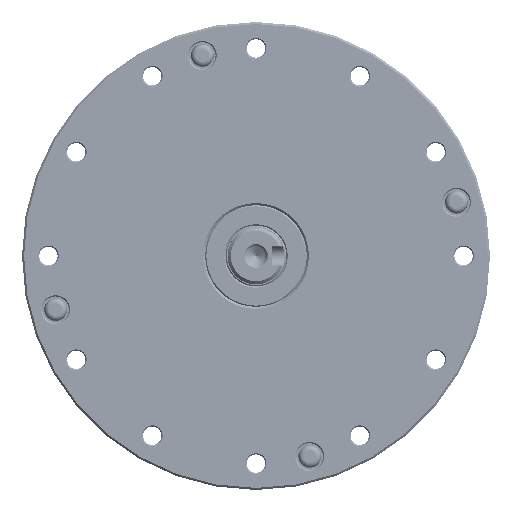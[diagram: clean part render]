
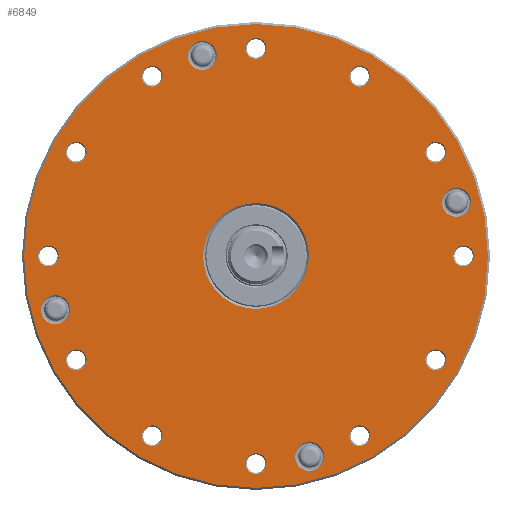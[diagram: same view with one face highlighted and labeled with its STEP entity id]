
A CAD part, front view. The second image highlights one B-rep face of the part: STEP entity #6849.
In plain terms, the highlighted planar face has unit normal (0, -1, 0) as drawn and (0, 0, -1) by its records, which use the part's own axes.
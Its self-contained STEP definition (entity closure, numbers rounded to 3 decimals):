
#5776=PLANE('',#22064);
#6849=ADVANCED_FACE('',(#8374,#8375,#8376,#8377,#8378,#8379,#8380,#8381,
#8382,#8383,#8384,#8385,#8386,#8387,#8388,#8389,#8390,#8391),#5776,.F.);
#8374=FACE_BOUND('',#10141,.T.);
#8375=FACE_BOUND('',#10142,.T.);
#8376=FACE_BOUND('',#10143,.T.);
#8377=FACE_BOUND('',#10144,.T.);
#8378=FACE_BOUND('',#10145,.T.);
#8379=FACE_BOUND('',#10146,.T.);
#8380=FACE_BOUND('',#10147,.T.);
#8381=FACE_BOUND('',#10148,.T.);
#8382=FACE_BOUND('',#10149,.T.);
#8383=FACE_BOUND('',#10150,.T.);
#8384=FACE_BOUND('',#10151,.T.);
#8385=FACE_BOUND('',#10152,.T.);
#8386=FACE_BOUND('',#10153,.T.);
#8387=FACE_BOUND('',#10154,.T.);
#8388=FACE_BOUND('',#10155,.T.);
#8389=FACE_BOUND('',#10156,.T.);
#8390=FACE_BOUND('',#10157,.T.);
#8391=FACE_BOUND('',#10158,.T.);
#10141=EDGE_LOOP('',(#13551));
#10142=EDGE_LOOP('',(#13552));
#10143=EDGE_LOOP('',(#13553));
#10144=EDGE_LOOP('',(#13554));
#10145=EDGE_LOOP('',(#13555));
#10146=EDGE_LOOP('',(#13556));
#10147=EDGE_LOOP('',(#13557));
#10148=EDGE_LOOP('',(#13558));
#10149=EDGE_LOOP('',(#13559));
#10150=EDGE_LOOP('',(#13560));
#10151=EDGE_LOOP('',(#13561));
#10152=EDGE_LOOP('',(#13562));
#10153=EDGE_LOOP('',(#13563));
#10154=EDGE_LOOP('',(#13564));
#10155=EDGE_LOOP('',(#13565));
#10156=EDGE_LOOP('',(#13566));
#10157=EDGE_LOOP('',(#13567));
#10158=EDGE_LOOP('',(#13568));
#13551=ORIENTED_EDGE('',*,*,#19021,.T.);
#13552=ORIENTED_EDGE('',*,*,#19022,.T.);
#13553=ORIENTED_EDGE('',*,*,#19023,.T.);
#13554=ORIENTED_EDGE('',*,*,#19024,.T.);
#13555=ORIENTED_EDGE('',*,*,#19025,.T.);
#13556=ORIENTED_EDGE('',*,*,#19026,.T.);
#13557=ORIENTED_EDGE('',*,*,#19027,.T.);
#13558=ORIENTED_EDGE('',*,*,#19028,.T.);
#13559=ORIENTED_EDGE('',*,*,#19029,.T.);
#13560=ORIENTED_EDGE('',*,*,#19030,.T.);
#13561=ORIENTED_EDGE('',*,*,#19031,.T.);
#13562=ORIENTED_EDGE('',*,*,#19032,.T.);
#13563=ORIENTED_EDGE('',*,*,#19033,.T.);
#13564=ORIENTED_EDGE('',*,*,#19034,.T.);
#13565=ORIENTED_EDGE('',*,*,#19035,.T.);
#13566=ORIENTED_EDGE('',*,*,#19036,.T.);
#13567=ORIENTED_EDGE('',*,*,#19037,.T.);
#13568=ORIENTED_EDGE('',*,*,#19038,.T.);
#16884=VERTEX_POINT('',#113744);
#16885=VERTEX_POINT('',#113746);
#16886=VERTEX_POINT('',#113748);
#16887=VERTEX_POINT('',#113750);
#16888=VERTEX_POINT('',#113752);
#16889=VERTEX_POINT('',#113754);
#16890=VERTEX_POINT('',#113756);
#16891=VERTEX_POINT('',#113758);
#16892=VERTEX_POINT('',#113760);
#16893=VERTEX_POINT('',#113762);
#16894=VERTEX_POINT('',#113764);
#16895=VERTEX_POINT('',#113766);
#16896=VERTEX_POINT('',#113768);
#16897=VERTEX_POINT('',#113770);
#16898=VERTEX_POINT('',#113772);
#16899=VERTEX_POINT('',#113774);
#16900=VERTEX_POINT('',#113776);
#16901=VERTEX_POINT('',#113778);
#19021=EDGE_CURVE('',#16884,#16884,#20609,.T.);
#19022=EDGE_CURVE('',#16885,#16885,#20610,.T.);
#19023=EDGE_CURVE('',#16886,#16886,#20611,.T.);
#19024=EDGE_CURVE('',#16887,#16887,#20612,.T.);
#19025=EDGE_CURVE('',#16888,#16888,#20613,.T.);
#19026=EDGE_CURVE('',#16889,#16889,#20614,.T.);
#19027=EDGE_CURVE('',#16890,#16890,#20615,.T.);
#19028=EDGE_CURVE('',#16891,#16891,#20616,.T.);
#19029=EDGE_CURVE('',#16892,#16892,#20617,.T.);
#19030=EDGE_CURVE('',#16893,#16893,#20618,.T.);
#19031=EDGE_CURVE('',#16894,#16894,#20619,.T.);
#19032=EDGE_CURVE('',#16895,#16895,#20620,.T.);
#19033=EDGE_CURVE('',#16896,#16896,#20621,.T.);
#19034=EDGE_CURVE('',#16897,#16897,#20622,.T.);
#19035=EDGE_CURVE('',#16898,#16898,#20623,.T.);
#19036=EDGE_CURVE('',#16899,#16899,#20624,.T.);
#19037=EDGE_CURVE('',#16900,#16900,#20625,.T.);
#19038=EDGE_CURVE('',#16901,#16901,#20626,.T.);
#20609=CIRCLE('',#22046,2.55);
#20610=CIRCLE('',#22047,3.55);
#20611=CIRCLE('',#22048,2.55);
#20612=CIRCLE('',#22049,3.55);
#20613=CIRCLE('',#22050,2.55);
#20614=CIRCLE('',#22051,2.55);
#20615=CIRCLE('',#22052,2.55);
#20616=CIRCLE('',#22053,2.55);
#20617=CIRCLE('',#22054,2.55);
#20618=CIRCLE('',#22055,3.55);
#20619=CIRCLE('',#22056,2.55);
#20620=CIRCLE('',#22057,2.55);
#20621=CIRCLE('',#22058,2.55);
#20622=CIRCLE('',#22059,3.55);
#20623=CIRCLE('',#22060,2.55);
#20624=CIRCLE('',#22061,2.55);
#20625=CIRCLE('',#22062,57.);
#20626=CIRCLE('',#22063,13.);
#22046=AXIS2_PLACEMENT_3D('',#113743,#25276,#25277);
#22047=AXIS2_PLACEMENT_3D('',#113745,#25278,#25279);
#22048=AXIS2_PLACEMENT_3D('',#113747,#25280,#25281);
#22049=AXIS2_PLACEMENT_3D('',#113749,#25282,#25283);
#22050=AXIS2_PLACEMENT_3D('',#113751,#25284,#25285);
#22051=AXIS2_PLACEMENT_3D('',#113753,#25286,#25287);
#22052=AXIS2_PLACEMENT_3D('',#113755,#25288,#25289);
#22053=AXIS2_PLACEMENT_3D('',#113757,#25290,#25291);
#22054=AXIS2_PLACEMENT_3D('',#113759,#25292,#25293);
#22055=AXIS2_PLACEMENT_3D('',#113761,#25294,#25295);
#22056=AXIS2_PLACEMENT_3D('',#113763,#25296,#25297);
#22057=AXIS2_PLACEMENT_3D('',#113765,#25298,#25299);
#22058=AXIS2_PLACEMENT_3D('',#113767,#25300,#25301);
#22059=AXIS2_PLACEMENT_3D('',#113769,#25302,#25303);
#22060=AXIS2_PLACEMENT_3D('',#113771,#25304,#25305);
#22061=AXIS2_PLACEMENT_3D('',#113773,#25306,#25307);
#22062=AXIS2_PLACEMENT_3D('',#113775,#25308,#25309);
#22063=AXIS2_PLACEMENT_3D('',#113777,#25310,#25311);
#22064=AXIS2_PLACEMENT_3D('',#113779,#25312,#25313);
#25276=DIRECTION('',(0.,0.,1.));
#25277=DIRECTION('',(1.,0.,0.));
#25278=DIRECTION('',(0.,0.,1.));
#25279=DIRECTION('',(1.,0.,0.));
#25280=DIRECTION('',(0.,0.,1.));
#25281=DIRECTION('',(1.,0.,0.));
#25282=DIRECTION('',(0.,0.,1.));
#25283=DIRECTION('',(1.,0.,0.));
#25284=DIRECTION('',(0.,0.,1.));
#25285=DIRECTION('',(1.,0.,0.));
#25286=DIRECTION('',(0.,0.,1.));
#25287=DIRECTION('',(1.,0.,0.));
#25288=DIRECTION('',(0.,0.,1.));
#25289=DIRECTION('',(1.,0.,0.));
#25290=DIRECTION('',(0.,0.,1.));
#25291=DIRECTION('',(1.,0.,0.));
#25292=DIRECTION('',(0.,0.,1.));
#25293=DIRECTION('',(1.,0.,0.));
#25294=DIRECTION('',(0.,0.,1.));
#25295=DIRECTION('',(1.,0.,0.));
#25296=DIRECTION('',(0.,0.,1.));
#25297=DIRECTION('',(1.,0.,0.));
#25298=DIRECTION('',(0.,0.,1.));
#25299=DIRECTION('',(1.,0.,0.));
#25300=DIRECTION('',(0.,0.,1.));
#25301=DIRECTION('',(1.,0.,0.));
#25302=DIRECTION('',(0.,0.,1.));
#25303=DIRECTION('',(1.,0.,0.));
#25304=DIRECTION('',(0.,0.,1.));
#25305=DIRECTION('',(1.,0.,0.));
#25306=DIRECTION('',(0.,0.,1.));
#25307=DIRECTION('',(1.,0.,0.));
#25308=DIRECTION('',(0.,0.,-1.));
#25309=DIRECTION('',(1.,0.,0.));
#25310=DIRECTION('',(0.,0.,1.));
#25311=DIRECTION('',(1.,0.,0.));
#25312=DIRECTION('',(0.,0.,1.));
#25313=DIRECTION('',(1.,0.,0.));
#113743=CARTESIAN_POINT('',(0.,51.,0.));
#113744=CARTESIAN_POINT('',(2.55,51.,0.));
#113745=CARTESIAN_POINT('',(13.2,49.262,0.));
#113746=CARTESIAN_POINT('',(16.75,49.262,0.));
#113747=CARTESIAN_POINT('',(-51.,0.,0.));
#113748=CARTESIAN_POINT('',(-48.45,0.,0.));
#113749=CARTESIAN_POINT('',(-49.262,13.2,0.));
#113750=CARTESIAN_POINT('',(-45.712,13.2,0.));
#113751=CARTESIAN_POINT('',(-44.167,25.5,0.));
#113752=CARTESIAN_POINT('',(-41.617,25.5,0.));
#113753=CARTESIAN_POINT('',(-25.5,44.167,0.));
#113754=CARTESIAN_POINT('',(-22.95,44.167,0.));
#113755=CARTESIAN_POINT('',(25.5,44.167,0.));
#113756=CARTESIAN_POINT('',(28.05,44.167,0.));
#113757=CARTESIAN_POINT('',(44.167,25.5,0.));
#113758=CARTESIAN_POINT('',(46.717,25.5,0.));
#113759=CARTESIAN_POINT('',(51.,0.,0.));
#113760=CARTESIAN_POINT('',(53.55,0.,0.));
#113761=CARTESIAN_POINT('',(49.262,-13.2,0.));
#113762=CARTESIAN_POINT('',(52.812,-13.2,0.));
#113763=CARTESIAN_POINT('',(44.167,-25.5,0.));
#113764=CARTESIAN_POINT('',(46.717,-25.5,0.));
#113765=CARTESIAN_POINT('',(25.5,-44.167,0.));
#113766=CARTESIAN_POINT('',(28.05,-44.167,0.));
#113767=CARTESIAN_POINT('',(0.,-51.,0.));
#113768=CARTESIAN_POINT('',(2.55,-51.,0.));
#113769=CARTESIAN_POINT('',(-13.2,-49.262,0.));
#113770=CARTESIAN_POINT('',(-9.65,-49.262,0.));
#113771=CARTESIAN_POINT('',(-25.5,-44.167,0.));
#113772=CARTESIAN_POINT('',(-22.95,-44.167,0.));
#113773=CARTESIAN_POINT('',(-44.167,-25.5,0.));
#113774=CARTESIAN_POINT('',(-41.617,-25.5,0.));
#113775=CARTESIAN_POINT('',(0.,0.,0.));
#113776=CARTESIAN_POINT('',(57.,0.,0.));
#113777=CARTESIAN_POINT('',(0.,0.,0.));
#113778=CARTESIAN_POINT('',(13.,0.,0.));
#113779=CARTESIAN_POINT('',(0.,0.,0.));
